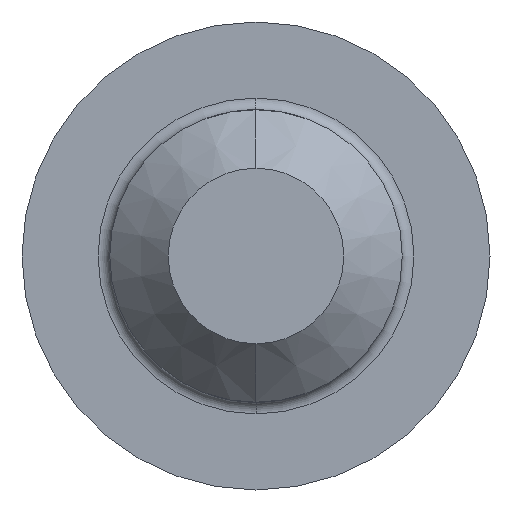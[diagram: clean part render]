
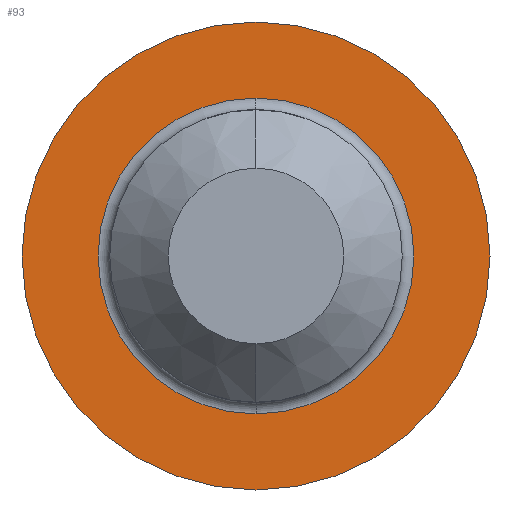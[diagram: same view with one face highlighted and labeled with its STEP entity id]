
A CAD part, left-side view. The second image highlights one B-rep face of the part: STEP entity #93.
In plain terms, the highlighted planar face has unit normal (-1, 0, 0).
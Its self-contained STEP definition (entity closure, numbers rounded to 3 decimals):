
#1 = VERTEX_POINT ( 'NONE', #87 ) ;
#4 = VERTEX_POINT ( 'NONE', #82 ) ;
#7 = EDGE_CURVE ( 'NONE', #4, #1, #77, .T. ) ;
#21 = VERTEX_POINT ( 'NONE', #181 ) ;
#25 = EDGE_CURVE ( 'NONE', #21, #62, #179, .T. ) ;
#62 = VERTEX_POINT ( 'NONE', #339 ) ;
#68 = EDGE_LOOP ( 'NONE', ( #96, #186 ) ) ;
#77 = CIRCLE ( 'NONE', #81, 2.7 ) ;
#81 = AXIS2_PLACEMENT_3D ( 'NONE', #106, #105, #104 ) ;
#82 = CARTESIAN_POINT ( 'NONE',  ( 0., 0., 2.7 ) ) ;
#87 = CARTESIAN_POINT ( 'NONE',  ( 0., 0., -2.7 ) ) ;
#93 = ADVANCED_FACE ( 'NONE', ( #330, #401 ), #398, .F. ) ;
#96 = ORIENTED_EDGE ( 'NONE', *, *, #184, .T. ) ;
#99 = EDGE_CURVE ( 'NONE', #62, #21, #260, .T. ) ;
#104 = DIRECTION ( 'NONE',  ( 0., 0., -1. ) ) ;
#105 = DIRECTION ( 'NONE',  ( 1., 0., 0. ) ) ;
#106 = CARTESIAN_POINT ( 'NONE',  ( 0., 0., 0. ) ) ;
#123 = AXIS2_PLACEMENT_3D ( 'NONE', #156, #155, #154 ) ;
#148 = ORIENTED_EDGE ( 'NONE', *, *, #99, .T. ) ;
#154 = DIRECTION ( 'NONE',  ( 0., 0., 1. ) ) ;
#155 = DIRECTION ( 'NONE',  ( -1., 0., 0. ) ) ;
#156 = CARTESIAN_POINT ( 'NONE',  ( 0., 0., 0. ) ) ;
#179 = CIRCLE ( 'NONE', #123, 4. ) ;
#181 = CARTESIAN_POINT ( 'NONE',  ( 0., 0., 4. ) ) ;
#184 = EDGE_CURVE ( 'NONE', #1, #4, #293, .T. ) ;
#186 = ORIENTED_EDGE ( 'NONE', *, *, #7, .T. ) ;
#214 = ORIENTED_EDGE ( 'NONE', *, *, #25, .T. ) ;
#215 = EDGE_LOOP ( 'NONE', ( #214, #148 ) ) ;
#257 = DIRECTION ( 'NONE',  ( 0., 0., -1. ) ) ;
#258 = DIRECTION ( 'NONE',  ( 1., 0., 0. ) ) ;
#260 = CIRCLE ( 'NONE', #322, 4. ) ;
#283 = DIRECTION ( 'NONE',  ( 0., 0., -1. ) ) ;
#284 = DIRECTION ( 'NONE',  ( 1., 0., 0. ) ) ;
#293 = CIRCLE ( 'NONE', #301, 2.7 ) ;
#298 = CARTESIAN_POINT ( 'NONE',  ( 0., 0., 0. ) ) ;
#301 = AXIS2_PLACEMENT_3D ( 'NONE', #298, #284, #283 ) ;
#319 = DIRECTION ( 'NONE',  ( 0., 0., 1. ) ) ;
#320 = DIRECTION ( 'NONE',  ( -1., 0., 0. ) ) ;
#321 = CARTESIAN_POINT ( 'NONE',  ( 0., 0., 0. ) ) ;
#322 = AXIS2_PLACEMENT_3D ( 'NONE', #321, #320, #319 ) ;
#330 = FACE_BOUND ( 'NONE', #68, .T. ) ;
#339 = CARTESIAN_POINT ( 'NONE',  ( 0., 0., -4. ) ) ;
#398 = PLANE ( 'NONE',  #418 ) ;
#401 = FACE_OUTER_BOUND ( 'NONE', #215, .T. ) ;
#414 = CARTESIAN_POINT ( 'NONE',  ( 0., 4., 0. ) ) ;
#418 = AXIS2_PLACEMENT_3D ( 'NONE', #414, #258, #257 ) ;
